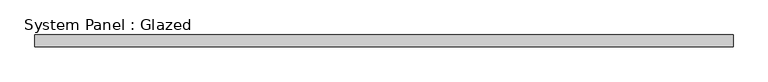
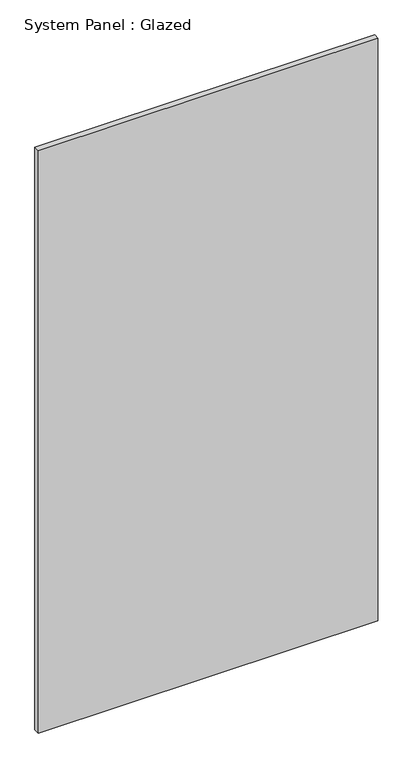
"""IFC4 building model written with IfcOpenShell, lengths in millimetres: plate geometry, System Panel : Glazed."""

from ifc_helpers import new_model, si_unit, origin, origin_with_axes, place, context, project, spatial, polyline, outline, extrude, source, transform, mapped, element, save


def system_panel_glazed_4036181e(model_context):
    return source(origin(), model_context, "Body", "SweptSolid", [
        extrude(outline(polyline([(742.4954406, 19.05), (-742.4954406, 19.05), (-742.4954406, 44.45), (742.4954406, 44.45), (742.4954406, 19.05)])), origin_with_axes(), (0.0, 0.0, 1.0), 2692.4),
    ])


if __name__ == "__main__":
    model = new_model("IFC4")
    model_context = context("Model", 3, world=origin())
    ifc_project = project(units=[si_unit("LENGTHUNIT", "METRE", prefix="MILLI")], contexts=[model_context])
    site = spatial("IfcSite", under=ifc_project)
    building = spatial("IfcBuilding", under=site)
    placement = place(None, origin())
    system_panel_glazed_shape = system_panel_glazed_4036181e(model_context)
    element("IfcPlate", 1, ObjectType="System Panel : Glazed", at=placement, inside=building, context=model_context, shape_type="MappedRepresentation", body=[
        mapped(system_panel_glazed_shape, transform((0.0, 0.0, 0.0), x_axis=(1.0, 0.0, 0.0), y_axis=(0.0, 1.0, 0.0), z_axis=(0.0, 0.0, 1.0))),
    ])
    save(model, "model.ifc")
